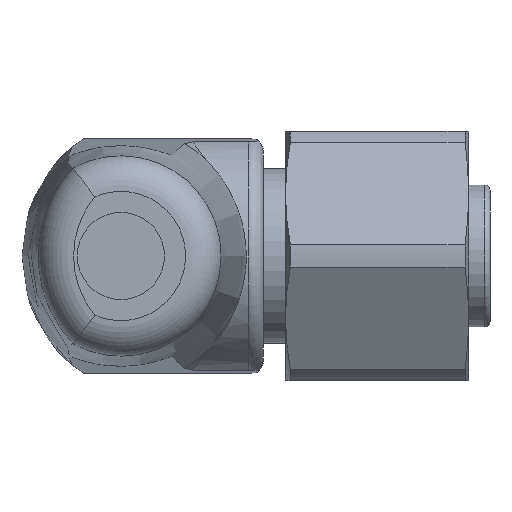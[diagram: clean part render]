
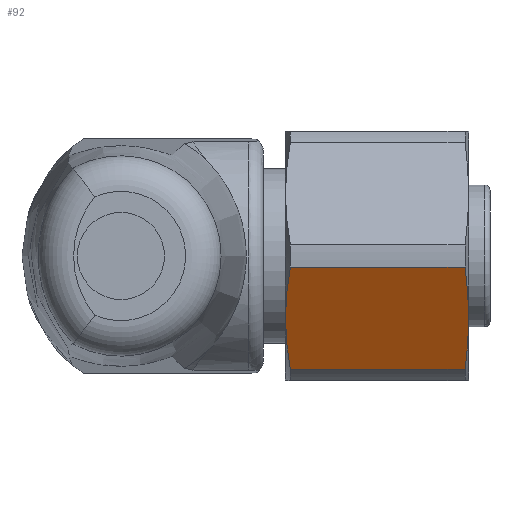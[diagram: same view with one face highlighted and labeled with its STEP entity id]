
A CAD part, front view. The second image highlights one B-rep face of the part: STEP entity #92.
In plain terms, the highlighted planar face has unit normal (0, -0.866, -0.5).
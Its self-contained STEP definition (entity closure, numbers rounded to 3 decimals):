
#92 = ADVANCED_FACE( '', ( #172 ), #173, .T. );
#172 = FACE_OUTER_BOUND( '', #323, .T. );
#173 = PLANE( '', #324 );
#323 = EDGE_LOOP( '', ( #561, #562, #563, #564, #565, #566 ) );
#324 = AXIS2_PLACEMENT_3D( '', #567, #568, #569 );
#561 = ORIENTED_EDGE( '', *, *, #930, .T. );
#562 = ORIENTED_EDGE( '', *, *, #939, .T. );
#563 = ORIENTED_EDGE( '', *, *, #950, .T. );
#564 = ORIENTED_EDGE( '', *, *, #951, .T. );
#565 = ORIENTED_EDGE( '', *, *, #952, .T. );
#566 = ORIENTED_EDGE( '', *, *, #953, .T. );
#567 = CARTESIAN_POINT( '', ( -12., -8.083, 0. ) );
#568 = DIRECTION( '', ( 0., -0.866, -0.5 ) );
#569 = DIRECTION( '', ( 0., 0.5, -0.866 ) );
#930 = EDGE_CURVE( '', #1105, #1106, #1107, .T. );
#939 = EDGE_CURVE( '', #1106, #1120, #1122, .T. );
#950 = EDGE_CURVE( '', #1120, #1141, #1142, .T. );
#951 = EDGE_CURVE( '', #1141, #1143, #1144, .T. );
#952 = EDGE_CURVE( '', #1143, #1145, #1146, .T. );
#953 = EDGE_CURVE( '', #1145, #1105, #1147, .F. );
#1105 = VERTEX_POINT( '', #1552 );
#1106 = VERTEX_POINT( '', #1553 );
#1107 = B_SPLINE_CURVE_WITH_KNOTS( '', 3, ( #1554, #1555, #1556, #1557 ), .UNSPECIFIED., .F., .F., ( 4, 4 ), ( 0., 0.003 ), .UNSPECIFIED. );
#1120 = VERTEX_POINT( '', #1580 );
#1122 = B_SPLINE_CURVE_WITH_KNOTS( '', 3, ( #1582, #1583, #1584, #1585 ), .UNSPECIFIED., .F., .F., ( 4, 4 ), ( 0.003, 0.007 ), .UNSPECIFIED. );
#1141 = VERTEX_POINT( '', #1624 );
#1142 = LINE( '', #1625, #1626 );
#1143 = VERTEX_POINT( '', #1627 );
#1144 = B_SPLINE_CURVE_WITH_KNOTS( '', 3, ( #1628, #1629, #1630, #1631 ), .UNSPECIFIED., .F., .F., ( 4, 4 ), ( 0., 0.003 ), .UNSPECIFIED. );
#1145 = VERTEX_POINT( '', #1632 );
#1146 = B_SPLINE_CURVE_WITH_KNOTS( '', 3, ( #1633, #1634, #1635, #1636 ), .UNSPECIFIED., .F., .F., ( 4, 4 ), ( 0.003, 0.007 ), .UNSPECIFIED. );
#1147 = LINE( '', #1637, #1638 );
#1552 = CARTESIAN_POINT( '', ( -11.227, -7.725, -0.62 ) );
#1553 = CARTESIAN_POINT( '', ( -11.5, -6.062, -3.5 ) );
#1554 = CARTESIAN_POINT( '', ( -11.227, -7.725, -0.62 ) );
#1555 = CARTESIAN_POINT( '', ( -11.4, -7.171, -1.58 ) );
#1556 = CARTESIAN_POINT( '', ( -11.5, -6.617, -2.54 ) );
#1557 = CARTESIAN_POINT( '', ( -11.5, -6.062, -3.5 ) );
#1580 = CARTESIAN_POINT( '', ( -11.227, -4.399, -6.38 ) );
#1582 = CARTESIAN_POINT( '', ( -11.5, -6.062, -3.5 ) );
#1583 = CARTESIAN_POINT( '', ( -11.5, -5.508, -4.46 ) );
#1584 = CARTESIAN_POINT( '', ( -11.4, -4.953, -5.42 ) );
#1585 = CARTESIAN_POINT( '', ( -11.227, -4.399, -6.38 ) );
#1624 = CARTESIAN_POINT( '', ( -1.401, -4.399, -6.38 ) );
#1625 = CARTESIAN_POINT( '', ( -1.2, -4.399, -6.38 ) );
#1626 = VECTOR( '', #1958, 1000. );
#1627 = CARTESIAN_POINT( '', ( -1.2, -6.062, -3.5 ) );
#1628 = CARTESIAN_POINT( '', ( -1.401, -4.399, -6.38 ) );
#1629 = CARTESIAN_POINT( '', ( -1.273, -4.953, -5.42 ) );
#1630 = CARTESIAN_POINT( '', ( -1.2, -5.508, -4.46 ) );
#1631 = CARTESIAN_POINT( '', ( -1.2, -6.062, -3.5 ) );
#1632 = CARTESIAN_POINT( '', ( -1.401, -7.725, -0.62 ) );
#1633 = CARTESIAN_POINT( '', ( -1.2, -6.062, -3.5 ) );
#1634 = CARTESIAN_POINT( '', ( -1.2, -6.617, -2.54 ) );
#1635 = CARTESIAN_POINT( '', ( -1.273, -7.171, -1.58 ) );
#1636 = CARTESIAN_POINT( '', ( -1.401, -7.725, -0.62 ) );
#1637 = CARTESIAN_POINT( '', ( -1.2, -7.725, -0.62 ) );
#1638 = VECTOR( '', #1959, 1000. );
#1958 = DIRECTION( '', ( 1., 0., 0. ) );
#1959 = DIRECTION( '', ( 1., 0., 0. ) );
